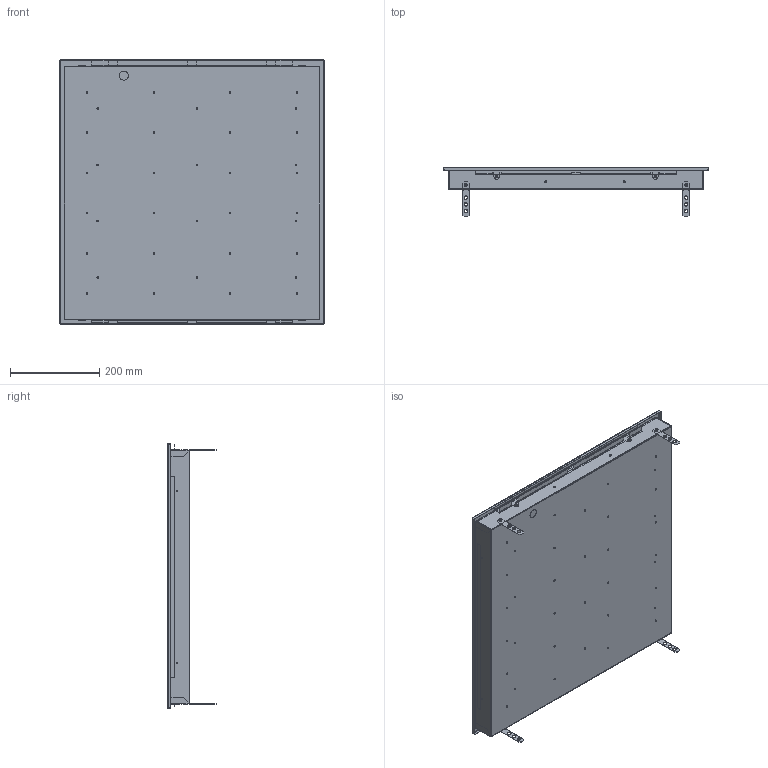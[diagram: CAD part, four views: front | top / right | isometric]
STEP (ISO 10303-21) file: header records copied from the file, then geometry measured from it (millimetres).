
FILE_DESCRIPTION(('STEP AP203'), '1');
FILE_NAME('砚弪桦桕 2', '', ('UNSPECIFIED'), ('UNSPECIFIED'), 'ASCON STEP Converter 1.6', 'ASCON Math Kernel', '');
FILE_SCHEMA(('CONFIG_CONTROL_DESIGN'));
Length unit declared in the file: millimetre
Products named in the file (13): ДКП008 01 001.00; ДКП008 01 003.01 СБ; ДКП008 01 003.01; ДКП008 01 003.03; ДКП008 01 001.02; ДКП008 01 001.04; ДКП008 01 001.06; ДКП008 01 001.05
Assembly tree (23 placements, depth 3):
  ДКП008 01 001.00
    ДКП008 01 003.01 СБ
      ДКП008 01 003.01
      (unnamed)  x4
      ДКП008 01 003.03  x4
    ДКП008 01 001.02
      ДКП008 01 001.04
      ДКП008 01 001.06
      ДКП008 01 001.05
    (unnamed)
    (unnamed)  x4
    (unnamed)  x2
    (unnamed)  x2
Bounding box: 592 x 110 x 592 mm (x, y, z)
Volume: 1306701.9 mm3; surface area: 1807842 mm2
Topology: 21 solids, 21 shells, 585 faces, 1373 edges, 852 vertices
Faces by surface type: plane 370, cylinder 151, bspline 40, torus 16, cone 8
Full cylindrical faces by diameter (mm): 1.85 x4, 2.2 x4, 2.5 x8, 3.2 x4, 3.5 x48, 4.4 x4, 4.5 x2, 8 x12, 20 x1
Entity records: 14302 total; most frequent: CARTESIAN_POINT 3673, DIRECTION 1962, ORIENTED_EDGE 1824, EDGE_CURVE 912, AXIS2_PLACEMENT_3D 671, LINE 620, VECTOR 620, EDGE_LOOP 610
